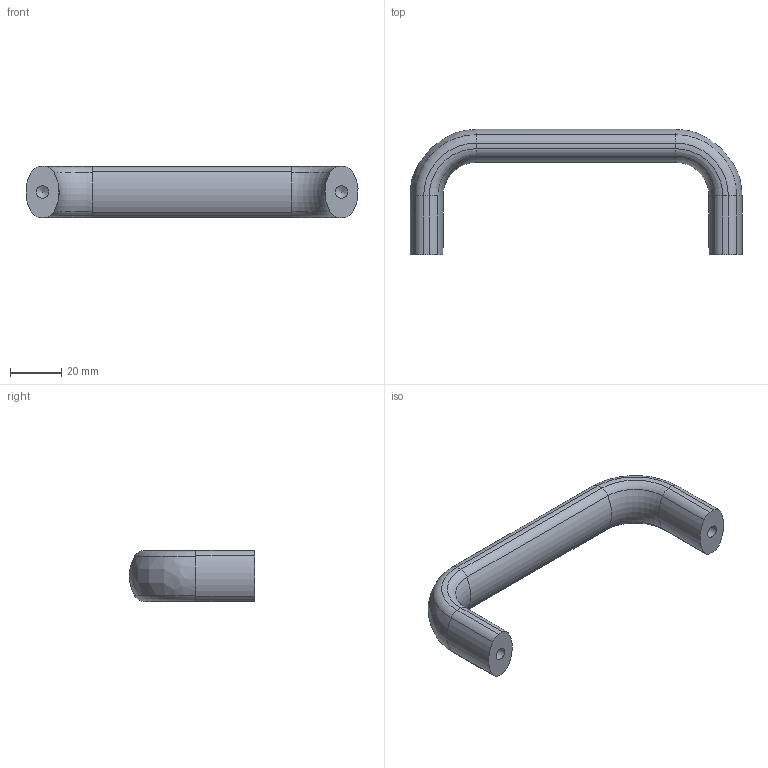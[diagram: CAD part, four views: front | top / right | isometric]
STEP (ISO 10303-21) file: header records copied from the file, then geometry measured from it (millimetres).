
FILE_DESCRIPTION( ( 'STEP AP203' ), '1' );
FILE_NAME( 'C:/Temp/Ganter_Step_05_03_2020/data/1_2/gn_565/Cabinet ''''U'''' handle GN 565-20-117-SR.stp', '2020-03-05T10:08:42', ( 'License CC BY-ND 4.0' ), ( 'CADENAS' ), ' ', 'PARTsolutions', ' ' );
FILE_SCHEMA( ( 'CONFIG_CONTROL_DESIGN' ) );
Length unit declared in the file: millimetre
Products named in the file (1): _Cabinet ''U'' handle GN 565-20-117-SR
Bounding box: 129.91 x 48.97 x 19.99 mm (x, y, z)
Volume: 38396.5 mm3; surface area: 10667.6 mm2
Topology: 1 solids, 1 shells, 53 faces, 128 edges, 77 vertices
Faces by surface type: cylinder 26, torus 14, plane 9, bspline 2, cone 2
Full cylindrical faces by diameter (mm): 4.917 x2
Entity records: 1640 total; most frequent: CARTESIAN_POINT 337, DIRECTION 304, ORIENTED_EDGE 244, AXIS2_PLACEMENT_3D 140, EDGE_CURVE 122, CIRCLE 88, VERTEX_POINT 77, EDGE_LOOP 57
